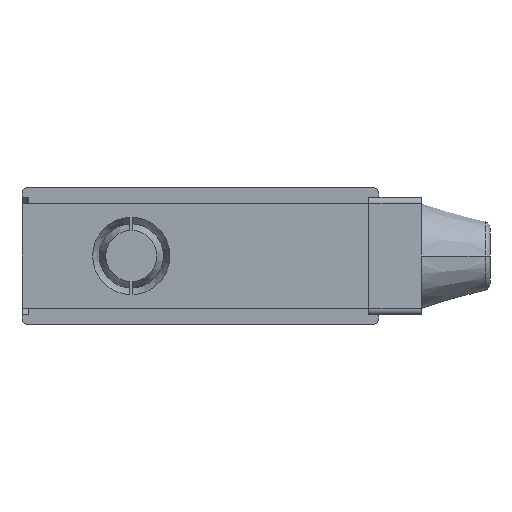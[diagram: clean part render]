
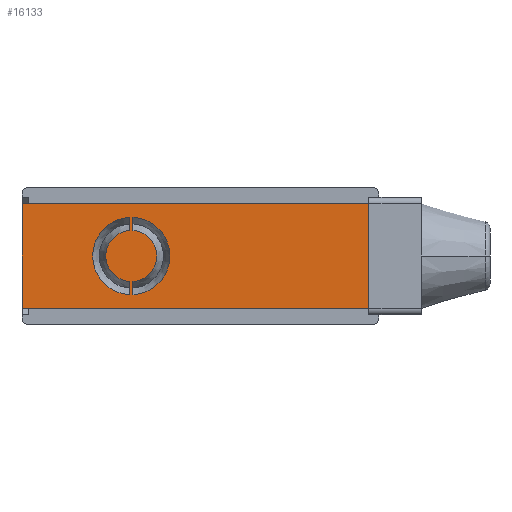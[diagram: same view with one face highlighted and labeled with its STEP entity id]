
A CAD part, front view. The second image highlights one B-rep face of the part: STEP entity #16133.
In plain terms, the highlighted planar face has unit normal (0, -1, 0).
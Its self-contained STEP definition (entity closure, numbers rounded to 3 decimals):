
#6 = VECTOR ( 'NONE', #10251, 1000. ) ;
#7 = VECTOR ( 'NONE', #10248, 1000. ) ;
#9 = AXIS2_PLACEMENT_3D ( 'NONE', #10228, #10229, #10230 ) ;
#11 = VECTOR ( 'NONE', #10245, 1000. ) ;
#57 = VECTOR ( 'NONE', #10254, 1000. ) ;
#72 = AXIS2_PLACEMENT_3D ( 'NONE', #10225, #10226, #10227 ) ;
#143 = VECTOR ( 'NONE', #11963, 1000. ) ;
#159 = AXIS2_PLACEMENT_3D ( 'NONE', #11921, #11922, #11923 ) ;
#161 = AXIS2_PLACEMENT_3D ( 'NONE', #11893, #11894, #11895 ) ;
#2922 = AXIS2_PLACEMENT_3D ( 'NONE', #3344, #3345, #3346 ) ;
#2926 = FACE_OUTER_BOUND ( 'NONE', #10736, .T. ) ;
#2930 = FACE_BOUND ( 'NONE', #10735, .T. ) ;
#2942 = FACE_BOUND ( 'NONE', #10734, .T. ) ;
#3343 = PLANE ( 'NONE',  #2922 ) ;
#3344 = CARTESIAN_POINT ( 'NONE',  ( 27.25, -19.6, 7.95 ) ) ;
#3345 = DIRECTION ( 'NONE',  ( 0., 1., 0. ) ) ;
#3346 = DIRECTION ( 'NONE',  ( 0., 0., 1. ) ) ;
#7644 = ORIENTED_EDGE ( 'NONE', *, *, #12532, .T. ) ;
#7647 = ORIENTED_EDGE ( 'NONE', *, *, #13301, .F. ) ;
#7648 = ORIENTED_EDGE ( 'NONE', *, *, #13307, .T. ) ;
#7651 = ORIENTED_EDGE ( 'NONE', *, *, #16609, .T. ) ;
#7652 = ORIENTED_EDGE ( 'NONE', *, *, #13308, .T. ) ;
#7655 = ORIENTED_EDGE ( 'NONE', *, *, #16603, .F. ) ;
#7656 = ORIENTED_EDGE ( 'NONE', *, *, #13305, .T. ) ;
#7659 = ORIENTED_EDGE ( 'NONE', *, *, #13306, .T. ) ;
#10225 = CARTESIAN_POINT ( 'NONE',  ( -10.55, -19.6, 0. ) ) ;
#10226 = DIRECTION ( 'NONE',  ( 0., -1., 0. ) ) ;
#10227 = DIRECTION ( 'NONE',  ( 0., 0., -1. ) ) ;
#10228 = CARTESIAN_POINT ( 'NONE',  ( -10.55, -19.6, 0. ) ) ;
#10229 = DIRECTION ( 'NONE',  ( 0., -1., 0. ) ) ;
#10230 = DIRECTION ( 'NONE',  ( 0., 0., -1. ) ) ;
#10243 = LINE ( 'NONE', #10244, #11 ) ;
#10244 = CARTESIAN_POINT ( 'NONE',  ( -10.3, -19.6, -5.9 ) ) ;
#10245 = DIRECTION ( 'NONE',  ( 0., 0., 1. ) ) ;
#10246 = LINE ( 'NONE', #10247, #7 ) ;
#10247 = CARTESIAN_POINT ( 'NONE',  ( -10.3, -19.6, -5.9 ) ) ;
#10248 = DIRECTION ( 'NONE',  ( 0., 0., 1. ) ) ;
#10249 = LINE ( 'NONE', #10250, #6 ) ;
#10250 = CARTESIAN_POINT ( 'NONE',  ( -10.8, -19.6, -5.9 ) ) ;
#10251 = DIRECTION ( 'NONE',  ( 0., 0., -1. ) ) ;
#10252 = LINE ( 'NONE', #10253, #57 ) ;
#10253 = CARTESIAN_POINT ( 'NONE',  ( -10.8, -19.6, -5.9 ) ) ;
#10254 = DIRECTION ( 'NONE',  ( 0., 0., -1. ) ) ;
#10366 = CARTESIAN_POINT ( 'NONE',  ( -10.8, -19.6, 3.892 ) ) ;
#10367 = CARTESIAN_POINT ( 'NONE',  ( -10.8, -19.6, -3.892 ) ) ;
#10368 = CARTESIAN_POINT ( 'NONE',  ( -10.8, -19.6, 5.895 ) ) ;
#10370 = CARTESIAN_POINT ( 'NONE',  ( -10.8, -19.6, -5.895 ) ) ;
#10419 = CARTESIAN_POINT ( 'NONE',  ( -27.25, -19.6, -7.95 ) ) ;
#10422 = CARTESIAN_POINT ( 'NONE',  ( -27.25, -19.6, 7.95 ) ) ;
#10462 = CARTESIAN_POINT ( 'NONE',  ( 27.25, -19.6, 7.95 ) ) ;
#10467 = CARTESIAN_POINT ( 'NONE',  ( 27.25, -19.6, -7.95 ) ) ;
#10506 = CARTESIAN_POINT ( 'NONE',  ( -10.3, -19.6, 3.892 ) ) ;
#10515 = CARTESIAN_POINT ( 'NONE',  ( -10.3, -19.6, -3.892 ) ) ;
#10534 = CARTESIAN_POINT ( 'NONE',  ( -10.3, -19.6, 5.895 ) ) ;
#10544 = CARTESIAN_POINT ( 'NONE',  ( -10.3, -19.6, -5.895 ) ) ;
#10734 = EDGE_LOOP ( 'NONE', ( #7656, #7655, #7659, #7651 ) ) ;
#10735 = EDGE_LOOP ( 'NONE', ( #7648, #7647, #7652, #15697 ) ) ;
#10736 = EDGE_LOOP ( 'NONE', ( #13452, #13451, #13450, #7644 ) ) ;
#11893 = CARTESIAN_POINT ( 'NONE',  ( -10.55, -19.6, 0. ) ) ;
#11894 = DIRECTION ( 'NONE',  ( 0., -1., 0. ) ) ;
#11895 = DIRECTION ( 'NONE',  ( 0., 0., -1. ) ) ;
#11921 = CARTESIAN_POINT ( 'NONE',  ( -10.55, -19.6, 0. ) ) ;
#11922 = DIRECTION ( 'NONE',  ( 0., -1., 0. ) ) ;
#11923 = DIRECTION ( 'NONE',  ( 0., 0., -1. ) ) ;
#11961 = LINE ( 'NONE', #11962, #143 ) ;
#11962 = CARTESIAN_POINT ( 'NONE',  ( 27.25, -19.6, 7.95 ) ) ;
#11963 = DIRECTION ( 'NONE',  ( 0., 0., -1. ) ) ;
#12324 = VECTOR ( 'NONE', #12670, 1000. ) ;
#12331 = VECTOR ( 'NONE', #12637, 1000. ) ;
#12352 = VECTOR ( 'NONE', #12751, 1000. ) ;
#12532 = EDGE_CURVE ( 'NONE', #13727, #13687, #12635, .T. ) ;
#12543 = EDGE_CURVE ( 'NONE', #13732, #13684, #12668, .T. ) ;
#12570 = EDGE_CURVE ( 'NONE', #13687, #13684, #12749, .T. ) ;
#12635 = LINE ( 'NONE', #12636, #12331 ) ;
#12636 = CARTESIAN_POINT ( 'NONE',  ( 27.25, -19.6, 7.95 ) ) ;
#12637 = DIRECTION ( 'NONE',  ( -1., 0., 0. ) ) ;
#12668 = LINE ( 'NONE', #12669, #12324 ) ;
#12669 = CARTESIAN_POINT ( 'NONE',  ( 27.25, -19.6, -7.95 ) ) ;
#12670 = DIRECTION ( 'NONE',  ( -1., 0., 0. ) ) ;
#12749 = LINE ( 'NONE', #12750, #12352 ) ;
#12750 = CARTESIAN_POINT ( 'NONE',  ( -27.25, -19.6, 7.95 ) ) ;
#12751 = DIRECTION ( 'NONE',  ( 0., 0., -1. ) ) ;
#13301 = EDGE_CURVE ( 'NONE', #13633, #13635, #16020, .T. ) ;
#13302 = EDGE_CURVE ( 'NONE', #13631, #13632, #16019, .T. ) ;
#13305 = EDGE_CURVE ( 'NONE', #13771, #13799, #10243, .T. ) ;
#13306 = EDGE_CURVE ( 'NONE', #13809, #13780, #10246, .T. ) ;
#13307 = EDGE_CURVE ( 'NONE', #13632, #13635, #10249, .T. ) ;
#13308 = EDGE_CURVE ( 'NONE', #13633, #13631, #10252, .T. ) ;
#13450 = ORIENTED_EDGE ( 'NONE', *, *, #16622, .F. ) ;
#13451 = ORIENTED_EDGE ( 'NONE', *, *, #12543, .F. ) ;
#13452 = ORIENTED_EDGE ( 'NONE', *, *, #12570, .T. ) ;
#13631 = VERTEX_POINT ( 'NONE', #10366 ) ;
#13632 = VERTEX_POINT ( 'NONE', #10367 ) ;
#13633 = VERTEX_POINT ( 'NONE', #10368 ) ;
#13635 = VERTEX_POINT ( 'NONE', #10370 ) ;
#13684 = VERTEX_POINT ( 'NONE', #10419 ) ;
#13687 = VERTEX_POINT ( 'NONE', #10422 ) ;
#13727 = VERTEX_POINT ( 'NONE', #10462 ) ;
#13732 = VERTEX_POINT ( 'NONE', #10467 ) ;
#13771 = VERTEX_POINT ( 'NONE', #10506 ) ;
#13780 = VERTEX_POINT ( 'NONE', #10515 ) ;
#13799 = VERTEX_POINT ( 'NONE', #10534 ) ;
#13809 = VERTEX_POINT ( 'NONE', #10544 ) ;
#15697 = ORIENTED_EDGE ( 'NONE', *, *, #13302, .T. ) ;
#15761 = CIRCLE ( 'NONE', #159, 3.9 ) ;
#15763 = CIRCLE ( 'NONE', #161, 5.9 ) ;
#16019 = CIRCLE ( 'NONE', #9, 3.9 ) ;
#16020 = CIRCLE ( 'NONE', #72, 5.9 ) ;
#16133 = ADVANCED_FACE ( 'NONE', ( #2942, #2930, #2926 ), #3343, .F. ) ;
#16603 = EDGE_CURVE ( 'NONE', #13809, #13799, #15763, .T. ) ;
#16609 = EDGE_CURVE ( 'NONE', #13780, #13771, #15761, .T. ) ;
#16622 = EDGE_CURVE ( 'NONE', #13727, #13732, #11961, .T. ) ;
